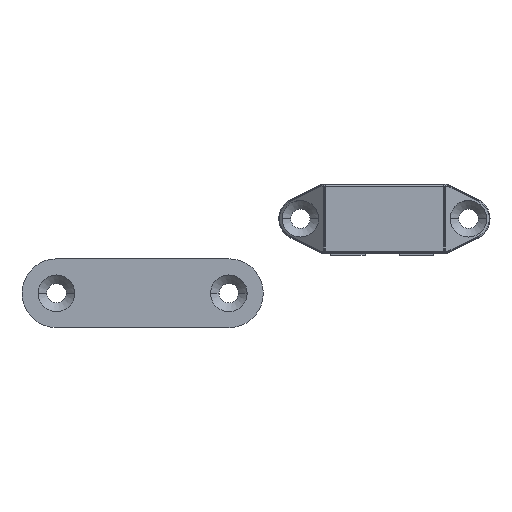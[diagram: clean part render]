
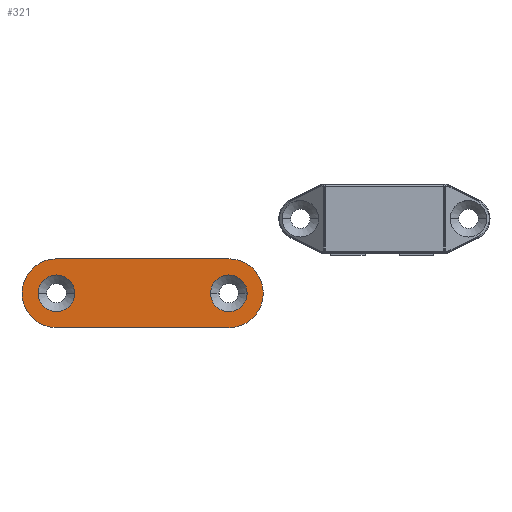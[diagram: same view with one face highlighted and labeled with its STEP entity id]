
A CAD part, top view. The second image highlights one B-rep face of the part: STEP entity #321.
In plain terms, the highlighted planar face has unit normal (0, 0, 1).
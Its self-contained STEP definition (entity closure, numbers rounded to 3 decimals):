
#83=CARTESIAN_POINT('',(33.,0.,1.0));
#84=VERTEX_POINT('',#83);
#100=CARTESIAN_POINT('',(25.,8.,1.0));
#101=VERTEX_POINT('',#100);
#108=CARTESIAN_POINT('',(25.,0.,1.0));
#109=DIRECTION('',(0.0,0.0,-1.0));
#110=DIRECTION('',(1.0,0.0,0.0));
#111=AXIS2_PLACEMENT_3D('',#108,#109,#110);
#112=CIRCLE('',#111,8.0);
#113=EDGE_CURVE('',#101,#84,#112,.T.);
#123=CARTESIAN_POINT('',(-23.,0.,1.0));
#124=VERTEX_POINT('',#123);
#133=CARTESIAN_POINT('',(-15.,8.,1.0));
#134=VERTEX_POINT('',#133);
#135=CARTESIAN_POINT('',(-15.,0.,1.0));
#136=DIRECTION('',(0.0,0.0,-1.0));
#137=DIRECTION('',(1.0,0.0,0.0));
#138=AXIS2_PLACEMENT_3D('',#135,#136,#137);
#139=CIRCLE('',#138,8.);
#140=EDGE_CURVE('',#124,#134,#139,.T.);
#165=CARTESIAN_POINT('',(-19.25,0.,1.0));
#166=VERTEX_POINT('',#165);
#175=CARTESIAN_POINT('',(-10.75,0.,1.0));
#176=VERTEX_POINT('',#175);
#177=CARTESIAN_POINT('',(-15.,0.,1.0));
#178=DIRECTION('',(0.0,0.0,1.0));
#179=DIRECTION('',(-1.0,0.0,0.0));
#180=AXIS2_PLACEMENT_3D('',#177,#178,#179);
#181=CIRCLE('',#180,4.25);
#182=EDGE_CURVE('',#166,#176,#181,.T.);
#207=CARTESIAN_POINT('',(20.75,0.,1.0));
#208=VERTEX_POINT('',#207);
#217=CARTESIAN_POINT('',(29.25,0.,1.0));
#218=VERTEX_POINT('',#217);
#219=CARTESIAN_POINT('',(25.,0.,1.0));
#220=DIRECTION('',(0.0,0.0,1.0));
#221=DIRECTION('',(-1.0,0.0,0.0));
#222=AXIS2_PLACEMENT_3D('',#219,#220,#221);
#223=CIRCLE('',#222,4.25);
#224=EDGE_CURVE('',#208,#218,#223,.T.);
#258=CARTESIAN_POINT('',(25.,0.,1.0));
#259=DIRECTION('',(0.0,0.0,1.0));
#260=DIRECTION('',(-1.0,0.0,0.0));
#261=AXIS2_PLACEMENT_3D('',#258,#259,#260);
#262=CIRCLE('',#261,4.25);
#263=EDGE_CURVE('',#218,#208,#262,.T.);
#268=CARTESIAN_POINT('',(0.,0.,1.0));
#269=DIRECTION('',(0.0,0.0,1.0));
#270=DIRECTION('',(1.0,0.0,0.0));
#271=AXIS2_PLACEMENT_3D('',#268,#269,#270);
#272=PLANE('',#271);
#273=CARTESIAN_POINT('',(25.,-8.,1.0));
#274=VERTEX_POINT('',#273);
#275=CARTESIAN_POINT('',(-15.,-8.0,1.0));
#276=VERTEX_POINT('',#275);
#277=CARTESIAN_POINT('',(25.,-8.,1.0));
#278=DIRECTION('',(-1.0,0.0,0.0));
#279=VECTOR('',#278,40.);
#280=LINE('',#277,#279);
#281=EDGE_CURVE('',#274,#276,#280,.T.);
#282=ORIENTED_EDGE('',*,*,#281,.F.);
#283=CARTESIAN_POINT('',(25.,0.,1.0));
#284=DIRECTION('',(0.0,0.0,-1.0));
#285=DIRECTION('',(1.0,0.0,0.0));
#286=AXIS2_PLACEMENT_3D('',#283,#284,#285);
#287=CIRCLE('',#286,8.0);
#288=EDGE_CURVE('',#84,#274,#287,.T.);
#289=ORIENTED_EDGE('',*,*,#288,.F.);
#290=ORIENTED_EDGE('',*,*,#113,.F.);
#291=CARTESIAN_POINT('',(-15.,8.,1.0));
#292=DIRECTION('',(1.0,0.0,0.0));
#293=VECTOR('',#292,40.);
#294=LINE('',#291,#293);
#295=EDGE_CURVE('',#134,#101,#294,.T.);
#296=ORIENTED_EDGE('',*,*,#295,.F.);
#297=ORIENTED_EDGE('',*,*,#140,.F.);
#298=CARTESIAN_POINT('',(-15.,0.,1.0));
#299=DIRECTION('',(0.0,0.0,-1.0));
#300=DIRECTION('',(1.0,0.0,0.0));
#301=AXIS2_PLACEMENT_3D('',#298,#299,#300);
#302=CIRCLE('',#301,8.);
#303=EDGE_CURVE('',#276,#124,#302,.T.);
#304=ORIENTED_EDGE('',*,*,#303,.F.);
#305=EDGE_LOOP('',(#282,#289,#290,#296,#297,#304));
#306=FACE_OUTER_BOUND('',#305,.T.);
#307=CARTESIAN_POINT('',(-15.,0.,1.0));
#308=DIRECTION('',(0.0,0.0,1.0));
#309=DIRECTION('',(-1.0,0.0,0.0));
#310=AXIS2_PLACEMENT_3D('',#307,#308,#309);
#311=CIRCLE('',#310,4.25);
#312=EDGE_CURVE('',#176,#166,#311,.T.);
#313=ORIENTED_EDGE('',*,*,#312,.F.);
#314=ORIENTED_EDGE('',*,*,#182,.F.);
#315=EDGE_LOOP('',(#313,#314));
#316=FACE_BOUND('',#315,.T.);
#317=ORIENTED_EDGE('',*,*,#263,.F.);
#318=ORIENTED_EDGE('',*,*,#224,.F.);
#319=EDGE_LOOP('',(#317,#318));
#320=FACE_BOUND('',#319,.T.);
#321=ADVANCED_FACE('',(#306,#316,#320),#272,.T.);
